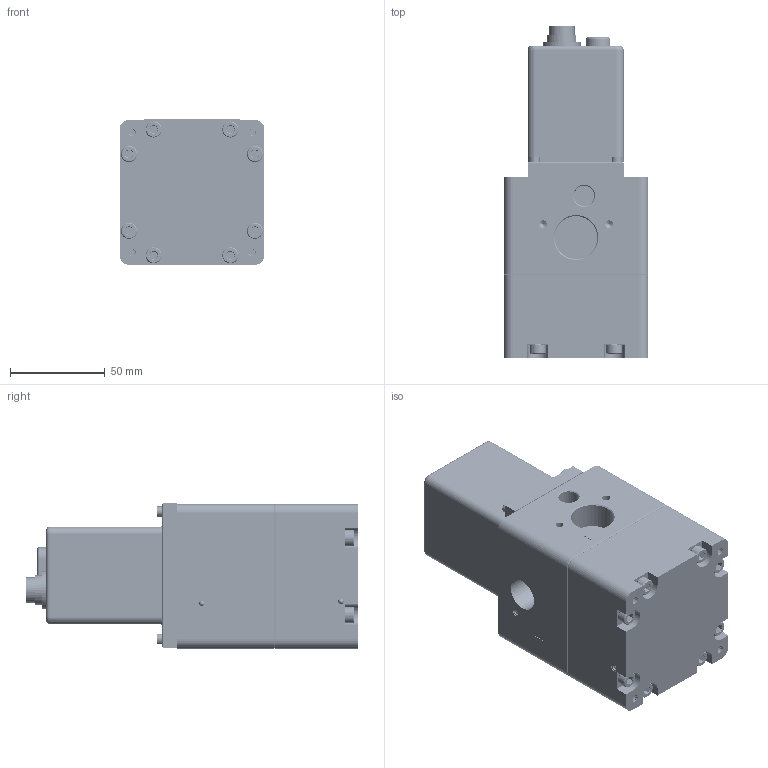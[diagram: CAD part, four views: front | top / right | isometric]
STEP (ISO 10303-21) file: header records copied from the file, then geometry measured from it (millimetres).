
FILE_DESCRIPTION(/* description */ (''),/* implementation_level */ '2;1');
FILE_NAME(/* name */ 'U:/AirCom-Produktdokumentation/Proportionaldruckregler/PQ6/Zeichnungen/CAD-Aircom/3D/B-PQ6.step',/* time_stamp */ '2018-07-11T13:03:52+02:00',/* author */ ('fschroers'),/* organization */ (''),/* preprocessor_version */ 'ST-DEVELOPER v17',/* originating_system */ 'Autodesk Translation Framework v7.1.0.215',/* authorisation */ '');
FILE_SCHEMA (('AUTOMOTIVE_DESIGN { 1 0 10303 214 3 1 1 }'));
Products named in the file (4): Unbenannt; 91292A690; Unbenannt_1; 91292A027
Assembly tree (13 placements, depth 2):
  Unbenannt
    91292A690  x8
    Unbenannt_1
    91292A027  x4
Bounding box: 76.5 x 175.3 x 76.94 mm (x, y, z)
Volume: 730870.1 mm3; surface area: 86756.7 mm2
Topology: 18 solids, 18 shells, 1353 faces, 3628 edges, 2359 vertices
Faces by surface type: cylinder 910, plane 234, cone 139, bspline 56, torus 10, sphere 4
Full cylindrical faces by diameter (mm): 1.3 x7, 2.35 x108, 2.529 x4, 2.8 x4, 3 x108, 3.332 x64, 3.5 x4, 3.961 x208, 4 x4, 4.109 x60, 4.234 x10, 5 x216, 5.5 x4, 8.5 x8, 10.7 x1, 13.5 x1, 15.5 x1, 17.4 x1, 20 x1, 22.6 x2
Entity records: 36690 total; most frequent: CARTESIAN_POINT 24021, ORIENTED_EDGE 2818, DIRECTION 2202, EDGE_CURVE 1409, VERTEX_POINT 922, AXIS2_PLACEMENT_3D 806, EDGE_LOOP 611, LINE 590
